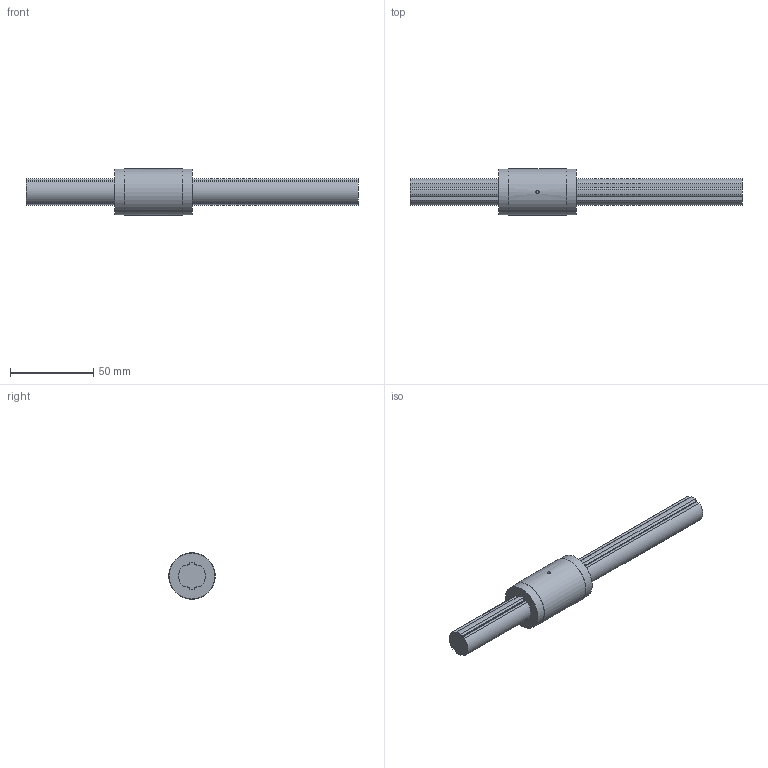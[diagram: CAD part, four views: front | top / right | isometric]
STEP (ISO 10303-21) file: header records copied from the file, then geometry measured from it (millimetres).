
FILE_DESCRIPTION(/* description */ ('STEP AP214'),/* implementation_level */ '2;1');
FILE_NAME(/* name */ 'LT16X+200L(00)',/* time_stamp */ '2024-09-05T14:15:53+02:00',/* author */ ('License CC BY-ND 4.0'),/* organization */ ('CADENAS'),/* preprocessor_version */ 'ST-DEVELOPER v19.3',/* originating_system */ 'PARTsolutions',/* authorisation */ ' ');
FILE_SCHEMA (('AUTOMOTIVE_DESIGN {1 0 10303 214 3 1 1}'));
Length unit declared in the file: millimetre
Products named in the file (3): LT16X+200L(00); 1LT16X 200Shaft; 1LT16X Cylindar
Assembly tree (2 placements, depth 2):
  LT16X+200L(00)
    1LT16X 200Shaft
    1LT16X Cylindar
Bounding box: 200 x 28 x 28 mm (x, y, z)
Volume: 57716.8 mm3; surface area: 18220.6 mm2
Topology: 2 solids, 2 shells, 64 faces, 173 edges, 115 vertices
Faces by surface type: cylinder 39, plane 25
Full cylindrical faces by diameter (mm): 2 x2, 27.6 x2, 28 x1
Entity records: 2129 total; most frequent: CARTESIAN_POINT 399, DIRECTION 366, ORIENTED_EDGE 332, EDGE_CURVE 166, AXIS2_PLACEMENT_3D 139, VERTEX_POINT 114, LINE 88, VECTOR 88
